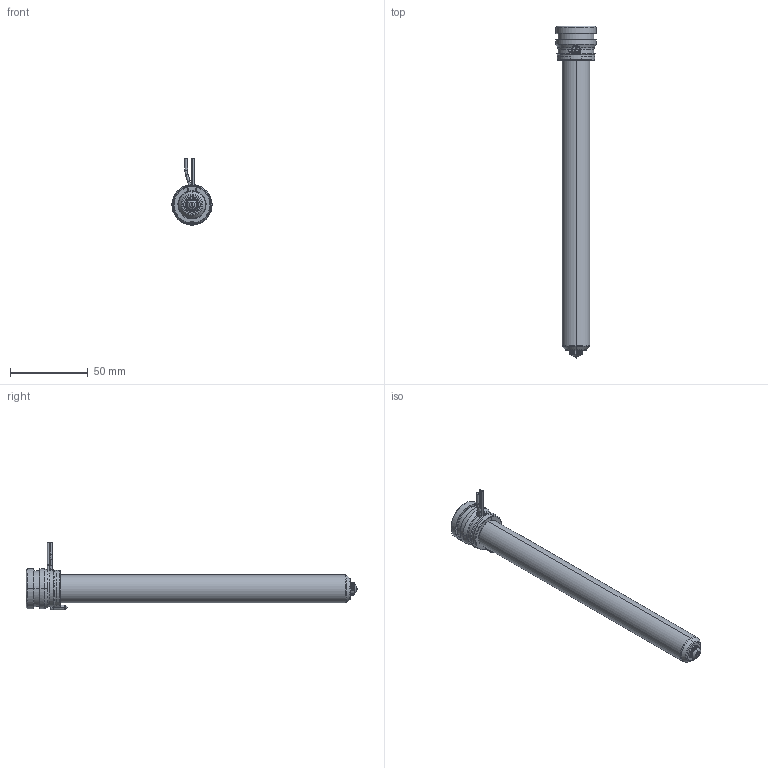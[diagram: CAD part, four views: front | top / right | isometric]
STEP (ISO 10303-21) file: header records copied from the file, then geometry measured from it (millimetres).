
FILE_DESCRIPTION((''),'2;1');
FILE_NAME('MPN-08-24-VSA8-196-A','2026-02-05T12:04:30',('UPTIO'),('Thermoplay S.p.A.'),'CREO PARAMETRIC BY PTC INC, 2023494','CREO PARAMETRIC BY PTC INC, 2023494','');
FILE_SCHEMA(('CONFIG_CONTROL_DESIGN','SHAPE_APPEARANCE_LAYERS_GROUPS'));
Length unit declared in the file: millimetre
Products named in the file (1): MPN-08-24-VSA8-196-A
Bounding box: 26 x 214 x 43.5 mm (x, y, z)
Volume: 39692.9 mm3; surface area: 52336.3 mm2
Topology: 2 solids, 3 shells, 543 faces, 1440 edges, 895 vertices
Faces by surface type: cylinder 182, plane 143, bspline 80, torus 62, cone 60, sphere 10, extrusion 6
Entity records: 29196 total; most frequent: CARTESIAN_POINT 12998, ORIENTED_EDGE 2864, DIRECTION 2580, EDGE_CURVE 1432, AXIS2_PLACEMENT_3D 1007, VERTEX_POINT 895, EDGE_LOOP 571, VECTOR 566
